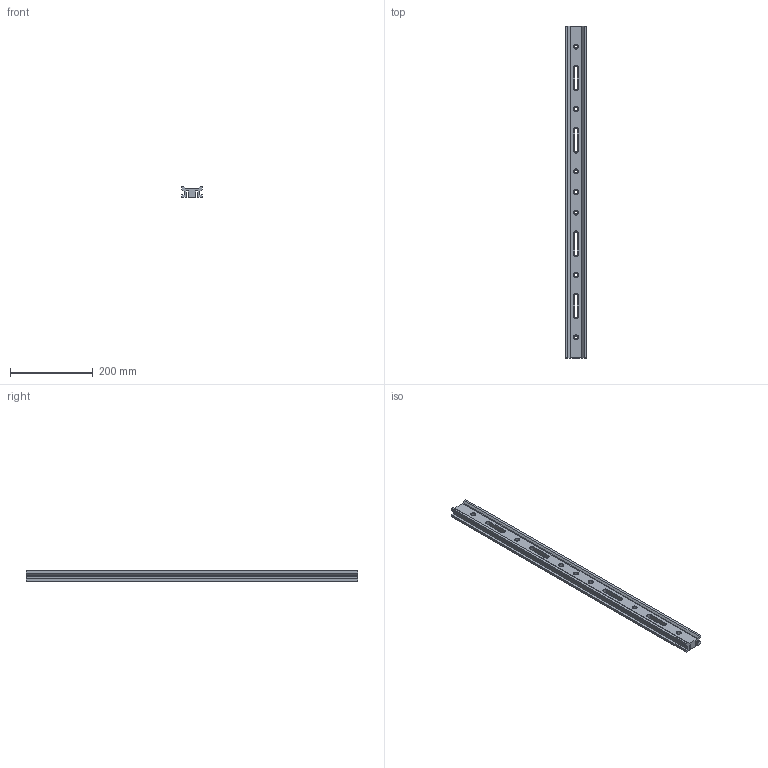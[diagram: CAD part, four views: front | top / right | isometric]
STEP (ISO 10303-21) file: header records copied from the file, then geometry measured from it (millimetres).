
FILE_DESCRIPTION((''),'2;1');
FILE_NAME('OOM-G800','2020-11-03T',('Administrator'),(''),'CREO PARAMETRIC BY PTC INC, 2015290','CREO PARAMETRIC BY PTC INC, 2015290','');
FILE_SCHEMA(('CONFIG_CONTROL_DESIGN'));
Length unit declared in the file: millimetre
Products named in the file (1): OOM-G800
Bounding box: 50 x 800 x 25 mm (x, y, z)
Volume: 576256 mm3; surface area: 197807.9 mm2
Topology: 1 solids, 1 shells, 131 faces, 324 edges, 206 vertices
Faces by surface type: cylinder 56, plane 53, torus 22
Entity records: 3988 total; most frequent: DIRECTION 734, CARTESIAN_POINT 661, ORIENTED_EDGE 648, EDGE_CURVE 324, AXIS2_PLACEMENT_3D 279, VERTEX_POINT 206, VECTOR 176, LINE 176
